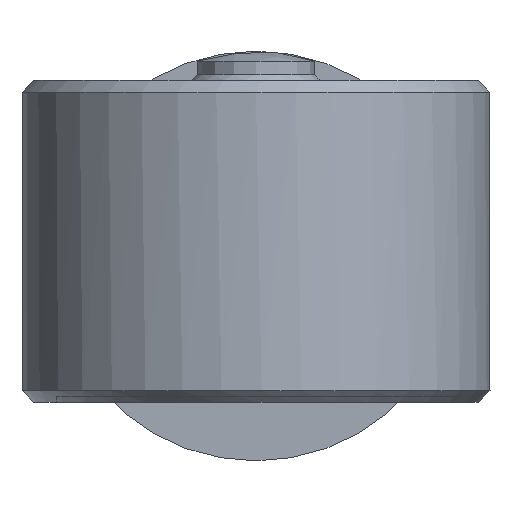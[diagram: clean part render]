
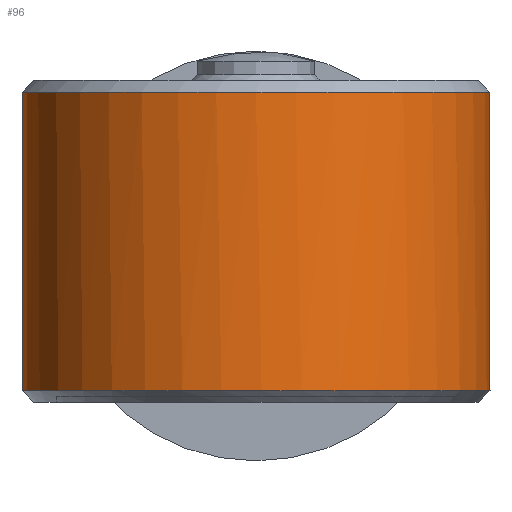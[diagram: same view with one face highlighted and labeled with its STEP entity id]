
A CAD part, left-side view. The second image highlights one B-rep face of the part: STEP entity #96.
In plain terms, the highlighted cylindrical face has radius 4 mm (diameter 8 mm), a partial arc.
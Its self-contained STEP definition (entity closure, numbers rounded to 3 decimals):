
#96 = ADVANCED_FACE( '', ( #216 ), #217, .T. );
#216 = FACE_OUTER_BOUND( '', #359, .T. );
#217 = CYLINDRICAL_SURFACE( '', #360, 4. );
#359 = EDGE_LOOP( '', ( #581, #582, #583, #584 ) );
#360 = AXIS2_PLACEMENT_3D( '', #585, #586, #587 );
#581 = ORIENTED_EDGE( '', *, *, #847, .F. );
#582 = ORIENTED_EDGE( '', *, *, #781, .T. );
#583 = ORIENTED_EDGE( '', *, *, #848, .F. );
#584 = ORIENTED_EDGE( '', *, *, #836, .F. );
#585 = CARTESIAN_POINT( '', ( 0., 0., -0.2 ) );
#586 = DIRECTION( '', ( 0., 0., -1. ) );
#587 = DIRECTION( '', ( 0., -1., 0. ) );
#781 = EDGE_CURVE( '', #916, #914, #917, .T. );
#836 = EDGE_CURVE( '', #1003, #1005, #1006, .T. );
#847 = EDGE_CURVE( '', #916, #1003, #1022, .F. );
#848 = EDGE_CURVE( '', #1005, #914, #1023, .F. );
#914 = VERTEX_POINT( '', #1141 );
#916 = VERTEX_POINT( '', #1146 );
#917 = LINE( '', #1147, #1148 );
#1003 = VERTEX_POINT( '', #1371 );
#1005 = VERTEX_POINT( '', #1376 );
#1006 = LINE( '', #1377, #1378 );
#1022 = CIRCLE( '', #1398, 4. );
#1023 = CIRCLE( '', #1399, 4. );
#1141 = CARTESIAN_POINT( '', ( 3.329, -2.218, 6.1 ) );
#1146 = CARTESIAN_POINT( '', ( 3.329, -2.218, 1. ) );
#1147 = CARTESIAN_POINT( '', ( 3.329, -2.218, -0.2 ) );
#1148 = VECTOR( '', #1522, 1000. );
#1371 = CARTESIAN_POINT( '', ( 3.329, 2.218, 1. ) );
#1376 = CARTESIAN_POINT( '', ( 3.329, 2.218, 6.1 ) );
#1377 = CARTESIAN_POINT( '', ( 3.329, 2.218, -0.2 ) );
#1378 = VECTOR( '', #1570, 1000. );
#1398 = AXIS2_PLACEMENT_3D( '', #1584, #1585, #1586 );
#1399 = AXIS2_PLACEMENT_3D( '', #1587, #1588, #1589 );
#1522 = DIRECTION( '', ( 0., 0., 1. ) );
#1570 = DIRECTION( '', ( 0., 0., 1. ) );
#1584 = CARTESIAN_POINT( '', ( 0., 0., 1. ) );
#1585 = DIRECTION( '', ( 0., 0., 1. ) );
#1586 = DIRECTION( '', ( 0., -1., 0. ) );
#1587 = CARTESIAN_POINT( '', ( 0., 0., 6.1 ) );
#1588 = DIRECTION( '', ( 0., 0., -1. ) );
#1589 = DIRECTION( '', ( 0., 1., 0. ) );
